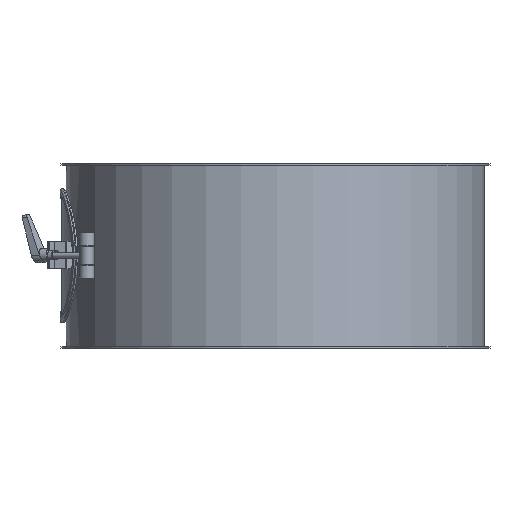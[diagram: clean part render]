
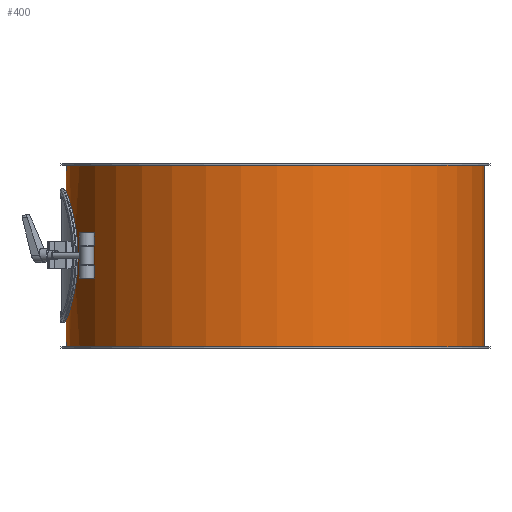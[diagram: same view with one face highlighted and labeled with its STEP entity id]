
A CAD part, front view. The second image highlights one B-rep face of the part: STEP entity #400.
In plain terms, the highlighted cylindrical face has radius 226 mm (diameter 452 mm), a full revolution.
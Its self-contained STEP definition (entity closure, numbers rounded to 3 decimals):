
#185=CARTESIAN_POINT('',(-218.563,-57.5,100.0));
#186=VERTEX_POINT('',#185);
#187=CARTESIAN_POINT('',(-218.563,-57.5,100.0));
#188=CARTESIAN_POINT('',(-218.563,-57.5,96.373));
#189=CARTESIAN_POINT('',(-218.656,-57.151,92.627));
#190=CARTESIAN_POINT('',(-219.033,-55.688,85.186));
#191=CARTESIAN_POINT('',(-219.317,-54.574,81.491));
#192=CARTESIAN_POINT('',(-220.027,-51.635,74.412));
#193=CARTESIAN_POINT('',(-220.454,-49.808,71.023));
#194=CARTESIAN_POINT('',(-221.364,-45.592,64.76));
#195=CARTESIAN_POINT('',(-221.847,-43.202,61.885));
#196=CARTESIAN_POINT('',(-222.778,-38.115,56.798));
#197=CARTESIAN_POINT('',(-223.258,-35.241,54.409));
#198=CARTESIAN_POINT('',(-224.157,-28.977,50.192));
#199=CARTESIAN_POINT('',(-224.575,-25.588,48.365));
#200=CARTESIAN_POINT('',(-225.269,-18.509,45.426));
#201=CARTESIAN_POINT('',(-225.545,-14.814,44.312));
#202=CARTESIAN_POINT('',(-225.91,-7.373,42.849));
#203=CARTESIAN_POINT('',(-226.0,-3.627,42.5));
#204=CARTESIAN_POINT('',(-226.0,3.627,42.5));
#205=CARTESIAN_POINT('',(-225.91,7.373,42.849));
#206=CARTESIAN_POINT('',(-225.545,14.814,44.312));
#207=CARTESIAN_POINT('',(-225.269,18.509,45.426));
#208=CARTESIAN_POINT('',(-224.575,25.588,48.365));
#209=CARTESIAN_POINT('',(-224.157,28.977,50.192));
#210=CARTESIAN_POINT('',(-223.258,35.241,54.409));
#211=CARTESIAN_POINT('',(-222.778,38.115,56.798));
#212=CARTESIAN_POINT('',(-221.847,43.202,61.885));
#213=CARTESIAN_POINT('',(-221.364,45.592,64.76));
#214=CARTESIAN_POINT('',(-220.454,49.808,71.023));
#215=CARTESIAN_POINT('',(-220.027,51.635,74.412));
#216=CARTESIAN_POINT('',(-219.317,54.574,81.491));
#217=CARTESIAN_POINT('',(-219.033,55.688,85.186));
#218=CARTESIAN_POINT('',(-218.656,57.151,92.627));
#219=CARTESIAN_POINT('',(-218.563,57.5,96.373));
#220=CARTESIAN_POINT('',(-218.563,57.5,103.627));
#221=CARTESIAN_POINT('',(-218.656,57.151,107.373));
#222=CARTESIAN_POINT('',(-219.033,55.688,114.814));
#223=CARTESIAN_POINT('',(-219.317,54.574,118.509));
#224=CARTESIAN_POINT('',(-220.027,51.635,125.588));
#225=CARTESIAN_POINT('',(-220.454,49.808,128.977));
#226=CARTESIAN_POINT('',(-221.364,45.592,135.24));
#227=CARTESIAN_POINT('',(-221.847,43.202,138.115));
#228=CARTESIAN_POINT('',(-222.778,38.115,143.202));
#229=CARTESIAN_POINT('',(-223.258,35.241,145.591));
#230=CARTESIAN_POINT('',(-224.157,28.977,149.808));
#231=CARTESIAN_POINT('',(-224.575,25.588,151.635));
#232=CARTESIAN_POINT('',(-225.269,18.509,154.574));
#233=CARTESIAN_POINT('',(-225.545,14.814,155.688));
#234=CARTESIAN_POINT('',(-225.91,7.373,157.151));
#235=CARTESIAN_POINT('',(-226.0,3.627,157.5));
#236=CARTESIAN_POINT('',(-226.0,-3.627,157.5));
#237=CARTESIAN_POINT('',(-225.91,-7.373,157.151));
#238=CARTESIAN_POINT('',(-225.545,-14.814,155.688));
#239=CARTESIAN_POINT('',(-225.269,-18.509,154.574));
#240=CARTESIAN_POINT('',(-224.575,-25.588,151.635));
#241=CARTESIAN_POINT('',(-224.157,-28.977,149.808));
#242=CARTESIAN_POINT('',(-223.258,-35.241,145.591));
#243=CARTESIAN_POINT('',(-222.778,-38.115,143.202));
#244=CARTESIAN_POINT('',(-221.847,-43.202,138.115));
#245=CARTESIAN_POINT('',(-221.364,-45.592,135.24));
#246=CARTESIAN_POINT('',(-220.454,-49.808,128.977));
#247=CARTESIAN_POINT('',(-220.027,-51.635,125.588));
#248=CARTESIAN_POINT('',(-219.317,-54.574,118.509));
#249=CARTESIAN_POINT('',(-219.033,-55.688,114.814));
#250=CARTESIAN_POINT('',(-218.656,-57.151,107.373));
#251=CARTESIAN_POINT('',(-218.563,-57.5,103.627));
#252=CARTESIAN_POINT('',(-218.563,-57.5,100.));
#253=B_SPLINE_CURVE_WITH_KNOTS('',3,(#187,#188,#189,#190,#191,#192,#193,#194,#195,#196,#197,#198,#199,#200,#201,#202,#203,#204,#205,#206,#207,#208,#209,#210,#211,#212,#213,#214,#215,#216,#217,#218,#219,#220,#221,#222,#223,#224,#225,#226,#227,#228,#229,#230,#231,#232,#233,#234,#235,#236,#237,#238,#239,#240,#241,#242,#243,#244,#245,#246,#247,#248,#249,#250,#251,#252),.UNSPECIFIED.,.T.,.U.,(4,2,2,2,2,2,2,2,2,2,2,2,2,2,2,2,2,2,2,2,2,2,2,2,2,2,2,2,2,2,2,2,4),(0.0,1.088,2.176,3.265,4.353,5.441,6.529,7.617,8.705,9.793,10.881,11.969,13.057,14.146,15.234,16.322,17.41,18.499,19.587,20.675,21.763,22.851,23.939,25.027,26.116,27.204,28.292,29.38,30.468,31.556,32.644,33.732,34.821),.UNSPECIFIED.);
#254=EDGE_CURVE('',#186,#186,#253,.T.);
#295=CARTESIAN_POINT('',(226.0,0.,198.0));
#296=VERTEX_POINT('',#295);
#297=CARTESIAN_POINT('',(0.0,0.0,198.0));
#298=DIRECTION('',(0.0,0.0,-1.0));
#299=DIRECTION('',(-1.0,0.0,0.0));
#300=AXIS2_PLACEMENT_3D('',#297,#298,#299);
#301=CIRCLE('',#300,226.0);
#302=EDGE_CURVE('',#296,#296,#301,.T.);
#343=CARTESIAN_POINT('',(-226.0,0.,2.0));
#344=VERTEX_POINT('',#343);
#345=CARTESIAN_POINT('',(0.0,0.0,2.0));
#346=DIRECTION('',(0.0,0.0,1.0));
#347=DIRECTION('',(-1.0,0.0,0.0));
#348=AXIS2_PLACEMENT_3D('',#345,#346,#347);
#349=CIRCLE('',#348,226.0);
#350=EDGE_CURVE('',#344,#344,#349,.T.);
#386=CARTESIAN_POINT('',(0.0,0.0,0.0));
#387=DIRECTION('',(0.0,0.0,1.0));
#388=DIRECTION('',(-1.0,0.0,0.0));
#389=AXIS2_PLACEMENT_3D('',#386,#387,#388);
#390=CYLINDRICAL_SURFACE('',#389,226.0);
#391=ORIENTED_EDGE('',*,*,#302,.T.);
#392=EDGE_LOOP('',(#391));
#393=FACE_OUTER_BOUND('',#392,.T.);
#394=ORIENTED_EDGE('',*,*,#254,.T.);
#395=EDGE_LOOP('',(#394));
#396=FACE_BOUND('',#395,.T.);
#397=ORIENTED_EDGE('',*,*,#350,.T.);
#398=EDGE_LOOP('',(#397));
#399=FACE_BOUND('',#398,.T.);
#400=ADVANCED_FACE('',(#393,#396,#399),#390,.T.);
